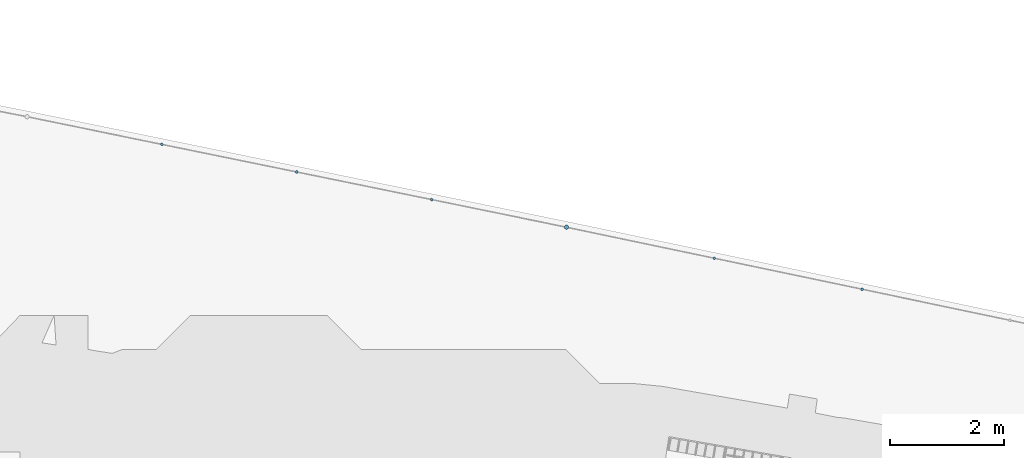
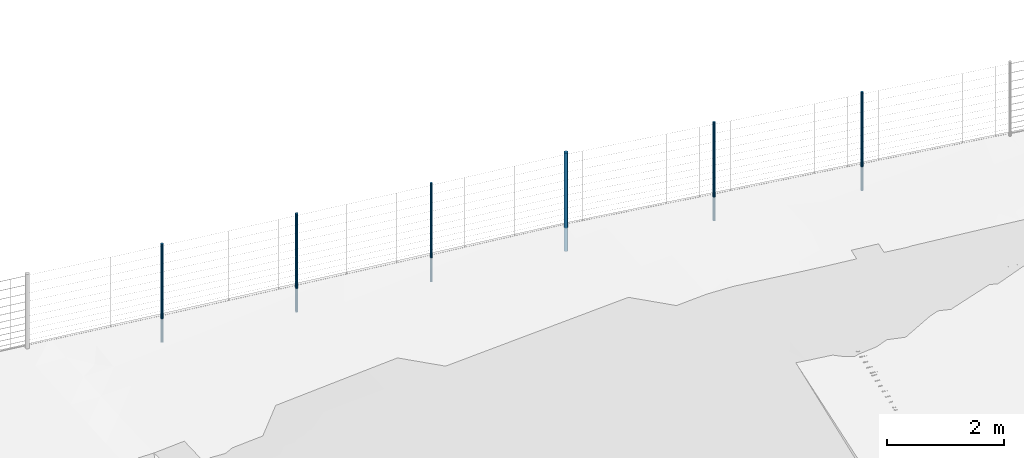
# Not in any storey, part 9 of 72: 6 members.
"""IFC4 model written with IfcOpenShell, lengths in metres."""

from ifc_helpers import new_model, si_unit, direction, frame, origin_with_axes, place, context, subcontext, project, spatial, circle, extrude, material, material_profile, profile_set, profile_usage, type_object, element, save


model = new_model("IFC4")

# Units and contexts
model_context = context("Model", 3, precision=1e-05, world=origin_with_axes(), true_north=direction((0.0, 1.0)))
body_context = subcontext(model_context, "Body", "Model", "MODEL_VIEW")
ifc_project = project(units=[si_unit("AREAUNIT", "SQUARE_METRE"), si_unit("VOLUMEUNIT", "CUBIC_METRE"), si_unit("LENGTHUNIT", "METRE")], contexts=[model_context])

# Site
site_placement = place(None, origin_with_axes())
site = spatial("IfcSite", under=ifc_project, at=site_placement, Name="Lares · Rua das Mercês · artigo 4771")

# Members
ifc_material = material(Name="Aço galvanizado / Stahl verzinkt", Category="steel")
ifc_material_profile_1 = material_profile(ifc_material, circle(Radius=0.038))
ifc_profile_set_1 = profile_set([ifc_material_profile_1], Name="D0.076")
ifc_profile_usage_1 = profile_usage(ifc_profile_set_1)
member_type_1 = type_object("IfcMemberType", Name="D0.076 / galvanized", PredefinedType="NOTDEFINED", material=ifc_profile_set_1)
member_1_placement = place(site_placement, frame((46.1070007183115, 15.3909816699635, 14.6058915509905), z_axis=(0.0, 0.0, 1.0), x_axis=(1.0, -1.03767253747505e-17, 0.0)))
element("IfcMember", 1, at=member_1_placement, inside=site, type_object=member_type_1, material=ifc_profile_usage_1, Name="Vedação · poste de canto/topo", PredefinedType="POST", context=body_context, shape_type="SweptSolid", body=[
    extrude(circle(Radius=0.038), origin_with_axes(), (0.0, 0.0, 1.0), 2.05),
])
ifc_material_profile_2 = material_profile(ifc_material, circle(Radius=0.024))
ifc_profile_set_2 = profile_set([ifc_material_profile_2], Name="D0.048")
ifc_profile_usage_2 = profile_usage(ifc_profile_set_2)
member_type_2 = type_object("IfcMemberType", Name="D0.048 / galvanized", PredefinedType="NOTDEFINED", material=ifc_profile_set_2)
member_2_placement = place(site_placement, frame((38.9905412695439, 16.8480818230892, 14.3078113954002), z_axis=(0.0, 0.0, 1.0), x_axis=(1.0, -1.03767253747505e-17, 0.0)))
element("IfcMember", 2, at=member_2_placement, inside=site, type_object=member_type_2, material=ifc_profile_usage_2, Name="Vedação · poste intermédio", PredefinedType="POST", context=body_context, shape_type="SweptSolid", body=[
    extrude(circle(Radius=0.024), origin_with_axes(), (0.0, 0.0, 1.0), 2.05),
])
ifc_profile_usage_3 = profile_usage(ifc_profile_set_2)
member_3_placement = place(site_placement, frame((41.3626944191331, 16.3623817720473, 14.4029065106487), z_axis=(0.0, 0.0, 1.0), x_axis=(1.0, -1.03767253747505e-17, 0.0)))
element("IfcMember", 3, at=member_3_placement, inside=site, type_object=member_type_2, material=ifc_profile_usage_3, Name="Vedação · poste intermédio", PredefinedType="POST", context=body_context, shape_type="SweptSolid", body=[
    extrude(circle(Radius=0.024), origin_with_axes(), (0.0, 0.0, 1.0), 2.05),
])
ifc_profile_usage_4 = profile_usage(ifc_profile_set_2)
member_4_placement = place(site_placement, frame((43.7348475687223, 15.8766817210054, 14.4980016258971), z_axis=(0.0, 0.0, 1.0), x_axis=(1.0, -1.03767253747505e-17, 0.0)))
element("IfcMember", 4, at=member_4_placement, inside=site, type_object=member_type_2, material=ifc_profile_usage_4, Name="Vedação · poste intermédio", PredefinedType="POST", context=body_context, shape_type="SweptSolid", body=[
    extrude(circle(Radius=0.024), origin_with_axes(), (0.0, 0.0, 1.0), 2.05),
])
ifc_profile_usage_5 = profile_usage(ifc_profile_set_2)
member_5_placement = place(site_placement, frame((48.7071218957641, 14.8452982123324, 14.6515622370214), z_axis=(0.0, 0.0, 1.0), x_axis=(1.0, -1.03767253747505e-17, 0.0)))
element("IfcMember", 5, at=member_5_placement, inside=site, type_object=member_type_2, material=ifc_profile_usage_5, Name="Vedação · poste intermédio", PredefinedType="POST", context=body_context, shape_type="SweptSolid", body=[
    extrude(circle(Radius=0.024), origin_with_axes(), (0.0, 0.0, 1.0), 2.05),
])
ifc_profile_usage_6 = profile_usage(ifc_profile_set_2)
member_6_placement = place(site_placement, frame((51.3072430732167, 14.2996147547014, 14.702935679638), z_axis=(0.0, 0.0, 1.0), x_axis=(1.0, -1.03767253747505e-17, 0.0)))
element("IfcMember", 6, at=member_6_placement, inside=site, type_object=member_type_2, material=ifc_profile_usage_6, Name="Vedação · poste intermédio", PredefinedType="POST", context=body_context, shape_type="SweptSolid", body=[
    extrude(circle(Radius=0.024), origin_with_axes(), (0.0, 0.0, 1.0), 2.05),
])

save(model, "model.ifc")
